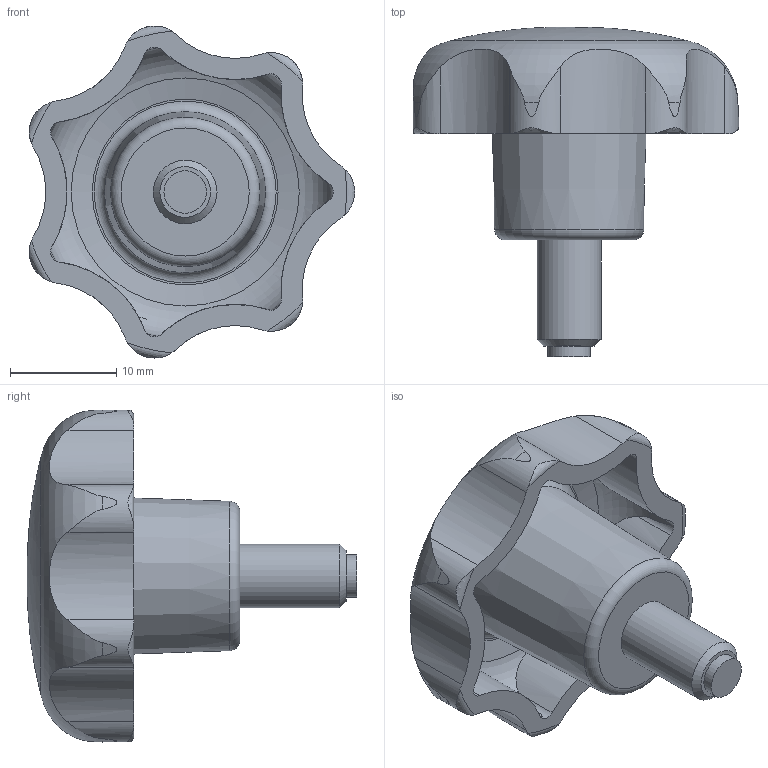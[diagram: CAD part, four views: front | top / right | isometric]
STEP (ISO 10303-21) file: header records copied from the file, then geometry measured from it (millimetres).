
FILE_DESCRIPTION( ( 'STEP AP203' ), '1' );
FILE_NAME( 'C:/Temp/Ganter_Step_05_03_2020/data/2_2/gn6336_10/Star knob GN 6336.10-32-M6-10-MS.stp', '2020-03-05T12:04:07', ( 'License CC BY-ND 4.0' ), ( 'CADENAS' ), ' ', 'PARTsolutions', ' ' );
FILE_SCHEMA( ( 'CONFIG_CONTROL_DESIGN' ) );
Length unit declared in the file: millimetre
Products named in the file (1): _Star knob GN 6336.10-32-M6-10-MS
Bounding box: 30.63 x 31.02 x 31.27 mm (x, y, z)
Volume: 5681.4 mm3; surface area: 3493.3 mm2
Topology: 1 solids, 1 shells, 65 faces, 189 edges, 128 vertices
Faces by surface type: cylinder 30, cone 17, torus 13, plane 4, bspline 1
Full cylindrical faces by diameter (mm): 4 x1, 6 x1
Entity records: 3035 total; most frequent: CARTESIAN_POINT 1421, ORIENTED_EDGE 348, DIRECTION 296, EDGE_CURVE 174, AXIS2_PLACEMENT_3D 134, VERTEX_POINT 125, EDGE_LOOP 78, B_SPLINE_CURVE_WITH_KNOTS 77
